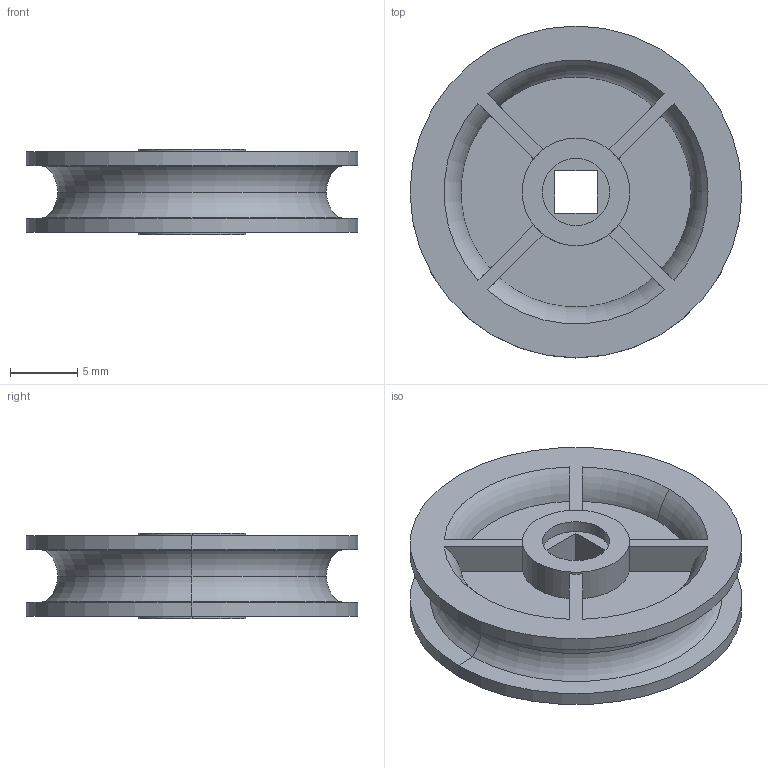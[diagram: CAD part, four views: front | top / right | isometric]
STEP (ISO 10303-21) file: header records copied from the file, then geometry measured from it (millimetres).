
FILE_DESCRIPTION (( 'STEP AP214' ), '1' );
FILE_NAME ('228-2500-164.STEP', '2021-02-18T19:56:02', ( '' ), ( '' ), 'SwSTEP 2.0', 'SolidWorks 2019', '' );
FILE_SCHEMA (( 'AUTOMOTIVE_DESIGN' ));
Length unit declared in the file: millimetre
Products named in the file (1): 228-2500-164
Bounding box: 24.7 x 24.7 x 6.35 mm (x, y, z)
Volume: 1395.4 mm3; surface area: 2105.4 mm2
Topology: 1 solids, 1 shells, 64 faces, 164 edges, 106 vertices
Faces by surface type: plane 34, torus 14, cylinder 12, cone 4
Entity records: 2046 total; most frequent: CARTESIAN_POINT 415, DIRECTION 350, ORIENTED_EDGE 328, EDGE_CURVE 164, AXIS2_PLACEMENT_3D 137, VERTEX_POINT 106, LINE 76, VECTOR 76
